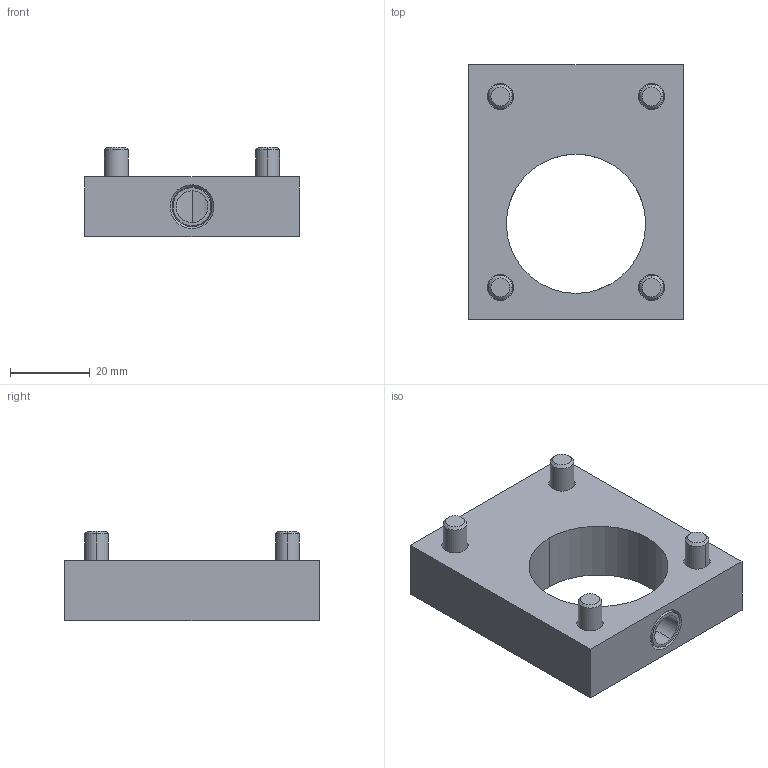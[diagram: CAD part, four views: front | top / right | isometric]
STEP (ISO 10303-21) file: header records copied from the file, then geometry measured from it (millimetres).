
FILE_DESCRIPTION (( 'STEP AP203' ), '1' );
FILE_NAME ('MJ0-KP(B1).STEP', '2024-01-05T13:09:42', ( '' ), ( '' ), 'SwSTEP 2.0', 'SolidWorks 2022', '' );
FILE_SCHEMA (( 'CONFIG_CONTROL_DESIGN' ));
Length unit declared in the file: millimetre
Products named in the file (1): MJ0-KP(B1)
Bounding box: 54 x 64 x 22.4 mm (x, y, z)
Volume: 36496.2 mm3; surface area: 15249.7 mm2
Topology: 7 solids, 7 shells, 141 faces, 336 edges, 213 vertices
Faces by surface type: plane 51, cylinder 46, cone 28, torus 16
Entity records: 4274 total; most frequent: CARTESIAN_POINT 898, DIRECTION 735, ORIENTED_EDGE 656, EDGE_CURVE 328, AXIS2_PLACEMENT_3D 300, VERTEX_POINT 213, EDGE_LOOP 169, CIRCLE 158
